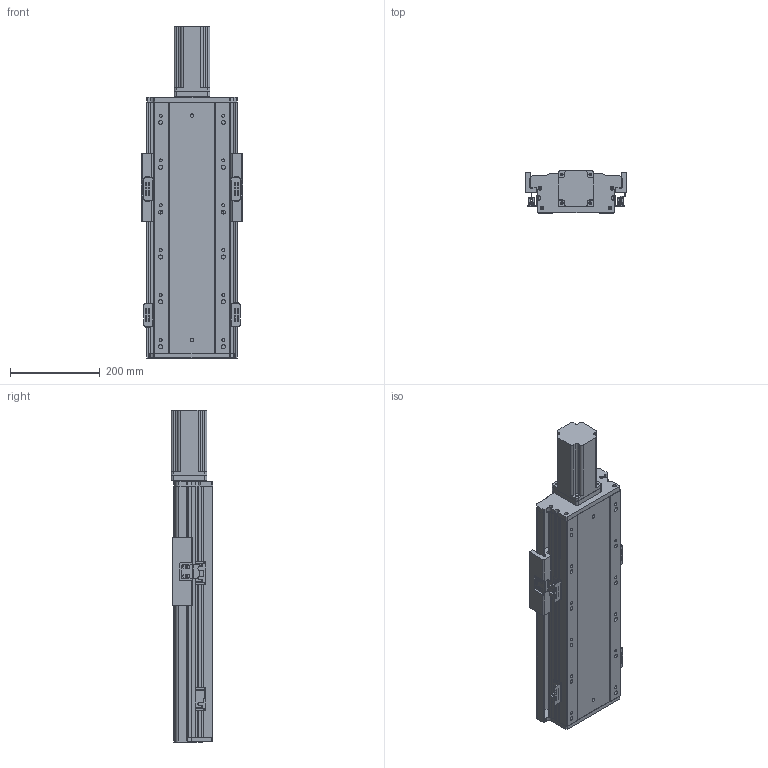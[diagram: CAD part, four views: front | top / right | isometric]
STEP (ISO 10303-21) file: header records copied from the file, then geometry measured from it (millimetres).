
FILE_DESCRIPTION (( 'STEP AP203' ), '1' );
FILE_NAME ('RY170FB-L2510-300-MK.SLDASM_250.step', '2021-02-22T08:56:25', ( '盈信电脑' ), ( '东莞市道滘镇水果街19号' ), 'SwSTEP 2.0', 'SolidWorks 2012', '' );
FILE_SCHEMA (( 'CONFIG_CONTROL_DESIGN' ));
Length unit declared in the file: millimetre
Products named in the file (16): RY140-674嫖萇耀輸; RY140FB-覜茼え; RY170FB-L2510-300-MK.SLDASM_250; 覜茼ん674; RY140直线电机感应器674光电安装座; RY140FB-674嫖萇覜茼え; 750W萇儂梓袧蛌諉啣; RY170FB-300奻裔_250; 侂狟750W萇儂ㄗ80遺ㄘ; 滅袉蝶18-28; RY170FB-ヶ裔啣; 滅袉蝶18-10; RY170FB-铝滑块(25丝杆）; RY170FB-300倰第菁釱-MK_250; RY170FB-綴裔啣
Assembly tree (20 placements, depth 3):
  RY170FB-L2510-300-MK.SLDASM_250
    RY170FB-300倰第菁釱-MK_250
    RY170FB-綴裔啣
    RY170FB-ヶ裔啣
    滅袉蝶18-28
    滅袉蝶18-10
    RY170FB-铝滑块(25丝杆）
    RY170FB-300奻裔_250
    750W萇儂梓袧蛌諉啣
    侂狟750W萇儂ㄗ80遺ㄘ
    RY140-674嫖萇耀輸  x2
      覜茼ん674
      RY140直线电机感应器674光电安装座
    RY140FB-674嫖萇覜茼え
    RY140-674嫖萇耀輸  x2
      覜茼ん674
      RY140直线电机感应器674光电安装座
    RY140FB-覜茼え
Bounding box: 225 x 93.2 x 739.5 mm (x, y, z)
Volume: 4429563 mm3; surface area: 1163118.7 mm2
Topology: 21 solids, 21 shells, 1543 faces, 4349 edges, 2812 vertices
Faces by surface type: plane 761, cylinder 698, cone 84
Entity records: 38157 total; most frequent: CARTESIAN_POINT 7826, DIRECTION 6013, ORIENTED_EDGE 5982, EDGE_CURVE 2991, AXIS2_PLACEMENT_3D 2171, VERTEX_POINT 1966, LINE 1671, VECTOR 1671
